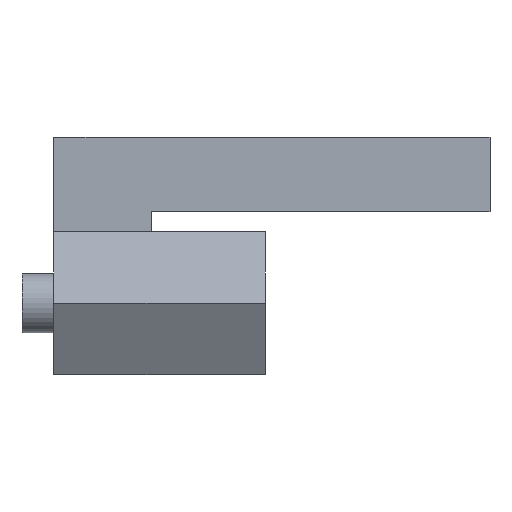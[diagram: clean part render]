
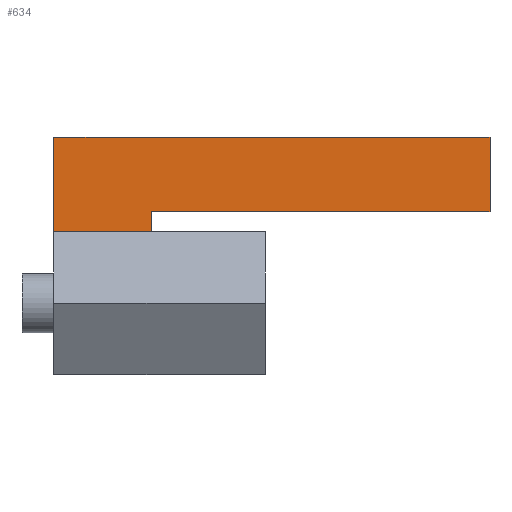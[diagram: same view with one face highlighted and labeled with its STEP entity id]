
A CAD part, front view. The second image highlights one B-rep face of the part: STEP entity #634.
In plain terms, the highlighted planar face has unit normal (0, -1, 0).
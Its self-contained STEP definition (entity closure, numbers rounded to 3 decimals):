
#45 = PLANE('',#46);
#46 = AXIS2_PLACEMENT_3D('',#47,#48,#49);
#47 = CARTESIAN_POINT('',(0.28,0.17,1.05));
#48 = DIRECTION('',(0.,0.,1.));
#49 = DIRECTION('',(-1.,0.,0.));
#176 = PLANE('',#177);
#177 = AXIS2_PLACEMENT_3D('',#178,#179,#180);
#178 = CARTESIAN_POINT('',(-1.1,0.17,1.049));
#179 = DIRECTION('',(-0.006,0.,1.));
#180 = DIRECTION('',(-1.,0.,-0.006));
#202 = VERTEX_POINT('',#203);
#203 = CARTESIAN_POINT('',(-0.86,-0.17,1.05));
#224 = EDGE_CURVE('',#202,#225,#227,.T.);
#225 = VERTEX_POINT('',#226);
#226 = CARTESIAN_POINT('',(1.42,-0.17,1.05));
#227 = SURFACE_CURVE('',#228,(#232,#239),.PCURVE_S1.);
#228 = LINE('',#229,#230);
#229 = CARTESIAN_POINT('',(-0.86,-0.17,1.05));
#230 = VECTOR('',#231,1.);
#231 = DIRECTION('',(1.,0.,0.));
#232 = PCURVE('',#45,#233);
#233 = DEFINITIONAL_REPRESENTATION('',(#234),#238);
#234 = LINE('',#235,#236);
#235 = CARTESIAN_POINT('',(1.14,0.34));
#236 = VECTOR('',#237,1.);
#237 = DIRECTION('',(-1.,0.));
#238 = ( GEOMETRIC_REPRESENTATION_CONTEXT(2) 
PARAMETRIC_REPRESENTATION_CONTEXT() REPRESENTATION_CONTEXT('2D SPACE',''
  ) );
#239 = PCURVE('',#240,#245);
#240 = PLANE('',#241);
#241 = AXIS2_PLACEMENT_3D('',#242,#243,#244);
#242 = CARTESIAN_POINT('',(0.,-0.17,0.792));
#243 = DIRECTION('',(0.,1.,0.));
#244 = DIRECTION('',(0.,-0.,1.));
#245 = DEFINITIONAL_REPRESENTATION('',(#246),#250);
#246 = LINE('',#247,#248);
#247 = CARTESIAN_POINT('',(0.258,-0.86));
#248 = VECTOR('',#249,1.);
#249 = DIRECTION('',(0.,1.));
#250 = ( GEOMETRIC_REPRESENTATION_CONTEXT(2) 
PARAMETRIC_REPRESENTATION_CONTEXT() REPRESENTATION_CONTEXT('2D SPACE',''
  ) );
#268 = PLANE('',#269);
#269 = AXIS2_PLACEMENT_3D('',#270,#271,#272);
#270 = CARTESIAN_POINT('',(1.42,0.17,0.815));
#271 = DIRECTION('',(1.,0.,0.));
#272 = DIRECTION('',(0.,0.,1.));
#332 = EDGE_CURVE('',#225,#333,#335,.T.);
#333 = VERTEX_POINT('',#334);
#334 = CARTESIAN_POINT('',(1.42,-0.17,0.58));
#335 = SURFACE_CURVE('',#336,(#340,#347),.PCURVE_S1.);
#336 = LINE('',#337,#338);
#337 = CARTESIAN_POINT('',(1.42,-0.17,1.05));
#338 = VECTOR('',#339,1.);
#339 = DIRECTION('',(0.,0.,-1.));
#340 = PCURVE('',#268,#341);
#341 = DEFINITIONAL_REPRESENTATION('',(#342),#346);
#342 = LINE('',#343,#344);
#343 = CARTESIAN_POINT('',(0.235,0.34));
#344 = VECTOR('',#345,1.);
#345 = DIRECTION('',(-1.,0.));
#346 = ( GEOMETRIC_REPRESENTATION_CONTEXT(2) 
PARAMETRIC_REPRESENTATION_CONTEXT() REPRESENTATION_CONTEXT('2D SPACE',''
  ) );
#347 = PCURVE('',#240,#348);
#348 = DEFINITIONAL_REPRESENTATION('',(#349),#353);
#349 = LINE('',#350,#351);
#350 = CARTESIAN_POINT('',(0.258,1.42));
#351 = VECTOR('',#352,1.);
#352 = DIRECTION('',(-1.,0.));
#353 = ( GEOMETRIC_REPRESENTATION_CONTEXT(2) 
PARAMETRIC_REPRESENTATION_CONTEXT() REPRESENTATION_CONTEXT('2D SPACE',''
  ) );
#371 = PLANE('',#372);
#372 = AXIS2_PLACEMENT_3D('',#373,#374,#375);
#373 = CARTESIAN_POINT('',(0.35,0.17,0.58));
#374 = DIRECTION('',(0.,0.,-1.));
#375 = DIRECTION('',(1.,0.,0.));
#408 = EDGE_CURVE('',#333,#409,#411,.T.);
#409 = VERTEX_POINT('',#410);
#410 = CARTESIAN_POINT('',(-0.72,-0.17,0.58));
#411 = SURFACE_CURVE('',#412,(#416,#423),.PCURVE_S1.);
#412 = LINE('',#413,#414);
#413 = CARTESIAN_POINT('',(1.42,-0.17,0.58));
#414 = VECTOR('',#415,1.);
#415 = DIRECTION('',(-1.,0.,0.));
#416 = PCURVE('',#371,#417);
#417 = DEFINITIONAL_REPRESENTATION('',(#418),#422);
#418 = LINE('',#419,#420);
#419 = CARTESIAN_POINT('',(1.07,0.34));
#420 = VECTOR('',#421,1.);
#421 = DIRECTION('',(-1.,0.));
#422 = ( GEOMETRIC_REPRESENTATION_CONTEXT(2) 
PARAMETRIC_REPRESENTATION_CONTEXT() REPRESENTATION_CONTEXT('2D SPACE',''
  ) );
#423 = PCURVE('',#240,#424);
#424 = DEFINITIONAL_REPRESENTATION('',(#425),#429);
#425 = LINE('',#426,#427);
#426 = CARTESIAN_POINT('',(-0.212,1.42));
#427 = VECTOR('',#428,1.);
#428 = DIRECTION('',(0.,-1.));
#429 = ( GEOMETRIC_REPRESENTATION_CONTEXT(2) 
PARAMETRIC_REPRESENTATION_CONTEXT() REPRESENTATION_CONTEXT('2D SPACE',''
  ) );
#447 = PLANE('',#448);
#448 = AXIS2_PLACEMENT_3D('',#449,#450,#451);
#449 = CARTESIAN_POINT('',(-0.72,0.17,0.516));
#450 = DIRECTION('',(1.,0.,0.));
#451 = DIRECTION('',(0.,0.,1.));
#484 = EDGE_CURVE('',#409,#485,#487,.T.);
#485 = VERTEX_POINT('',#486);
#486 = CARTESIAN_POINT('',(-0.72,-0.17,0.453));
#487 = SURFACE_CURVE('',#488,(#492,#499),.PCURVE_S1.);
#488 = LINE('',#489,#490);
#489 = CARTESIAN_POINT('',(-0.72,-0.17,0.58));
#490 = VECTOR('',#491,1.);
#491 = DIRECTION('',(0.,0.,-1.));
#492 = PCURVE('',#447,#493);
#493 = DEFINITIONAL_REPRESENTATION('',(#494),#498);
#494 = LINE('',#495,#496);
#495 = CARTESIAN_POINT('',(0.064,0.34));
#496 = VECTOR('',#497,1.);
#497 = DIRECTION('',(-1.,0.));
#498 = ( GEOMETRIC_REPRESENTATION_CONTEXT(2) 
PARAMETRIC_REPRESENTATION_CONTEXT() REPRESENTATION_CONTEXT('2D SPACE',''
  ) );
#499 = PCURVE('',#240,#500);
#500 = DEFINITIONAL_REPRESENTATION('',(#501),#505);
#501 = LINE('',#502,#503);
#502 = CARTESIAN_POINT('',(-0.212,-0.72));
#503 = VECTOR('',#504,1.);
#504 = DIRECTION('',(-1.,0.));
#505 = ( GEOMETRIC_REPRESENTATION_CONTEXT(2) 
PARAMETRIC_REPRESENTATION_CONTEXT() REPRESENTATION_CONTEXT('2D SPACE',''
  ) );
#523 = PLANE('',#524);
#524 = AXIS2_PLACEMENT_3D('',#525,#526,#527);
#525 = CARTESIAN_POINT('',(0.,0.,0.453));
#526 = DIRECTION('',(0.,0.,1.));
#527 = DIRECTION('',(0.,1.,0.));
#586 = VERTEX_POINT('',#587);
#587 = CARTESIAN_POINT('',(-1.34,-0.17,1.047));
#601 = PLANE('',#602);
#602 = AXIS2_PLACEMENT_3D('',#603,#604,#605);
#603 = CARTESIAN_POINT('',(-1.34,0.,0.)
  );
#604 = DIRECTION('',(-1.,0.,0.));
#605 = DIRECTION('',(0.,0.,1.));
#613 = EDGE_CURVE('',#586,#202,#614,.T.);
#614 = SURFACE_CURVE('',#615,(#619,#626),.PCURVE_S1.);
#615 = LINE('',#616,#617);
#616 = CARTESIAN_POINT('',(-1.34,-0.17,1.047));
#617 = VECTOR('',#618,1.);
#618 = DIRECTION('',(1.,0.,0.006));
#619 = PCURVE('',#176,#620);
#620 = DEFINITIONAL_REPRESENTATION('',(#621),#625);
#621 = LINE('',#622,#623);
#622 = CARTESIAN_POINT('',(0.24,0.34));
#623 = VECTOR('',#624,1.);
#624 = DIRECTION('',(-1.,0.));
#625 = ( GEOMETRIC_REPRESENTATION_CONTEXT(2) 
PARAMETRIC_REPRESENTATION_CONTEXT() REPRESENTATION_CONTEXT('2D SPACE',''
  ) );
#626 = PCURVE('',#240,#627);
#627 = DEFINITIONAL_REPRESENTATION('',(#628),#632);
#628 = LINE('',#629,#630);
#629 = CARTESIAN_POINT('',(0.255,-1.34));
#630 = VECTOR('',#631,1.);
#631 = DIRECTION('',(0.006,1.));
#632 = ( GEOMETRIC_REPRESENTATION_CONTEXT(2) 
PARAMETRIC_REPRESENTATION_CONTEXT() REPRESENTATION_CONTEXT('2D SPACE',''
  ) );
#634 = ADVANCED_FACE('',(#635),#240,.F.);
#635 = FACE_BOUND('',#636,.T.);
#636 = EDGE_LOOP('',(#637,#638,#639,#640,#663,#684,#685));
#637 = ORIENTED_EDGE('',*,*,#332,.F.);
#638 = ORIENTED_EDGE('',*,*,#224,.F.);
#639 = ORIENTED_EDGE('',*,*,#613,.F.);
#640 = ORIENTED_EDGE('',*,*,#641,.F.);
#641 = EDGE_CURVE('',#642,#586,#644,.T.);
#642 = VERTEX_POINT('',#643);
#643 = CARTESIAN_POINT('',(-1.34,-0.17,0.453));
#644 = SURFACE_CURVE('',#645,(#649,#656),.PCURVE_S1.);
#645 = LINE('',#646,#647);
#646 = CARTESIAN_POINT('',(-1.34,-0.17,0.453));
#647 = VECTOR('',#648,1.);
#648 = DIRECTION('',(0.,0.,1.));
#649 = PCURVE('',#240,#650);
#650 = DEFINITIONAL_REPRESENTATION('',(#651),#655);
#651 = LINE('',#652,#653);
#652 = CARTESIAN_POINT('',(-0.339,-1.34));
#653 = VECTOR('',#654,1.);
#654 = DIRECTION('',(1.,0.));
#655 = ( GEOMETRIC_REPRESENTATION_CONTEXT(2) 
PARAMETRIC_REPRESENTATION_CONTEXT() REPRESENTATION_CONTEXT('2D SPACE',''
  ) );
#656 = PCURVE('',#601,#657);
#657 = DEFINITIONAL_REPRESENTATION('',(#658),#662);
#658 = LINE('',#659,#660);
#659 = CARTESIAN_POINT('',(0.453,-0.17));
#660 = VECTOR('',#661,1.);
#661 = DIRECTION('',(1.,0.));
#662 = ( GEOMETRIC_REPRESENTATION_CONTEXT(2) 
PARAMETRIC_REPRESENTATION_CONTEXT() REPRESENTATION_CONTEXT('2D SPACE',''
  ) );
#663 = ORIENTED_EDGE('',*,*,#664,.F.);
#664 = EDGE_CURVE('',#485,#642,#665,.T.);
#665 = SURFACE_CURVE('',#666,(#670,#677),.PCURVE_S1.);
#666 = LINE('',#667,#668);
#667 = CARTESIAN_POINT('',(0.,-0.17,0.453));
#668 = VECTOR('',#669,1.);
#669 = DIRECTION('',(-1.,0.,0.));
#670 = PCURVE('',#240,#671);
#671 = DEFINITIONAL_REPRESENTATION('',(#672),#676);
#672 = LINE('',#673,#674);
#673 = CARTESIAN_POINT('',(-0.339,0.));
#674 = VECTOR('',#675,1.);
#675 = DIRECTION('',(0.,-1.));
#676 = ( GEOMETRIC_REPRESENTATION_CONTEXT(2) 
PARAMETRIC_REPRESENTATION_CONTEXT() REPRESENTATION_CONTEXT('2D SPACE',''
  ) );
#677 = PCURVE('',#523,#678);
#678 = DEFINITIONAL_REPRESENTATION('',(#679),#683);
#679 = LINE('',#680,#681);
#680 = CARTESIAN_POINT('',(-0.17,0.));
#681 = VECTOR('',#682,1.);
#682 = DIRECTION('',(0.,1.));
#683 = ( GEOMETRIC_REPRESENTATION_CONTEXT(2) 
PARAMETRIC_REPRESENTATION_CONTEXT() REPRESENTATION_CONTEXT('2D SPACE',''
  ) );
#684 = ORIENTED_EDGE('',*,*,#484,.F.);
#685 = ORIENTED_EDGE('',*,*,#408,.F.);
